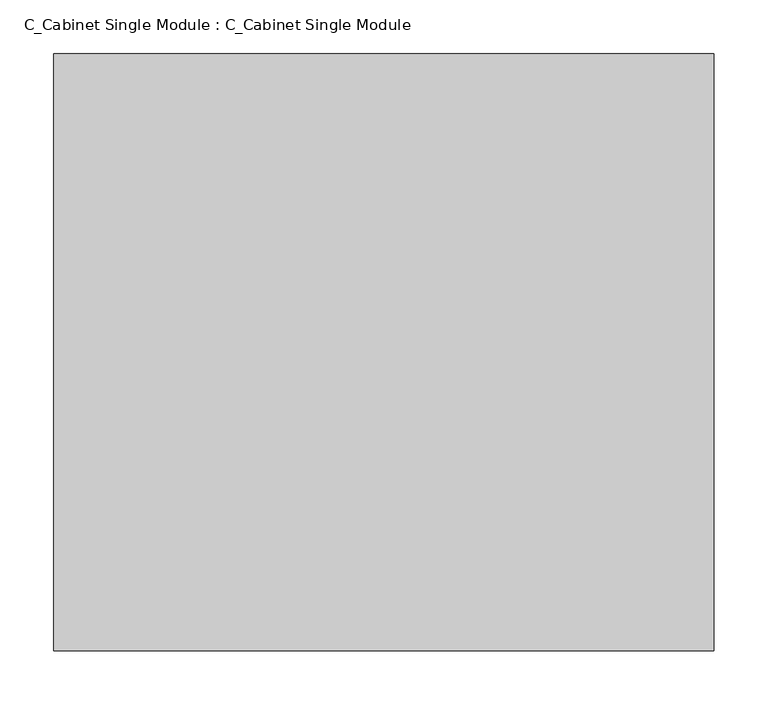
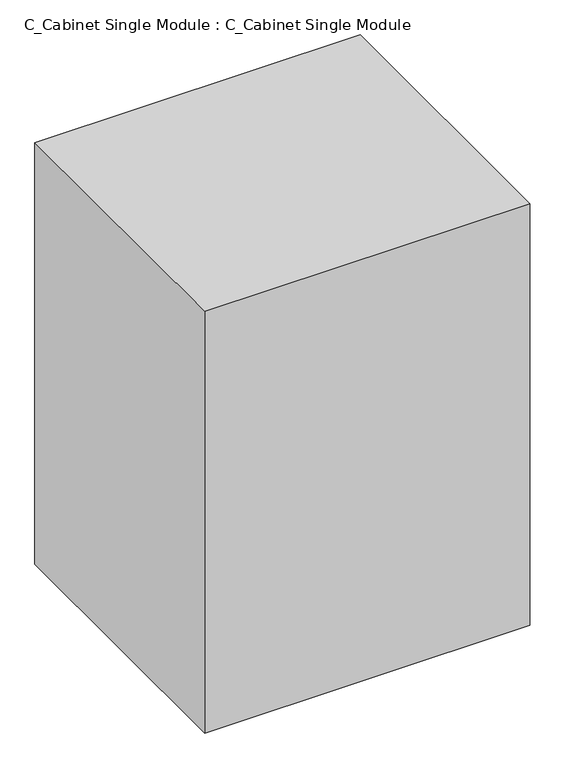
"""IFC4 building model written with IfcOpenShell, lengths in millimetres: furniture geometry, C_Cabinet Single Module : C_Cabinet Single Module."""

from ifc_helpers import new_model, si_unit, origin, origin_with_axes, place, context, project, spatial, polyline, outline, extrude, source, transform, mapped, element, save


def c_cabinet_single_module_c_cabinet_single_module_a6067ae1(model_context):
    return source(origin(), model_context, "Body", "SweptSolid", [
        extrude(outline(polyline([(305.59375, 0.0), (305.59375, -552.45), (-305.59375, -552.45), (-305.59375, 0.0), (305.59375, 0.0)])), origin_with_axes(), (0.0, 0.0, 1.0), 838.2),
    ])


if __name__ == "__main__":
    model = new_model("IFC4")
    model_context = context("Model", 3, world=origin())
    ifc_project = project(units=[si_unit("LENGTHUNIT", "METRE", prefix="MILLI")], contexts=[model_context])
    site = spatial("IfcSite", under=ifc_project)
    building = spatial("IfcBuilding", under=site)
    placement = place(None, origin())
    c_cabinet_single_module_c_cabinet_single_module_shape = c_cabinet_single_module_c_cabinet_single_module_a6067ae1(model_context)
    element("IfcFurniture", 1, ObjectType="C_Cabinet Single Module : C_Cabinet Single Module", at=placement, inside=building, context=model_context, shape_type="MappedRepresentation", body=[
        mapped(c_cabinet_single_module_c_cabinet_single_module_shape, transform((0.0, 0.0, 0.0), x_axis=(1.0, 0.0, 0.0), y_axis=(0.0, 1.0, 0.0), z_axis=(0.0, 0.0, 1.0))),
    ])
    save(model, "model.ifc")
